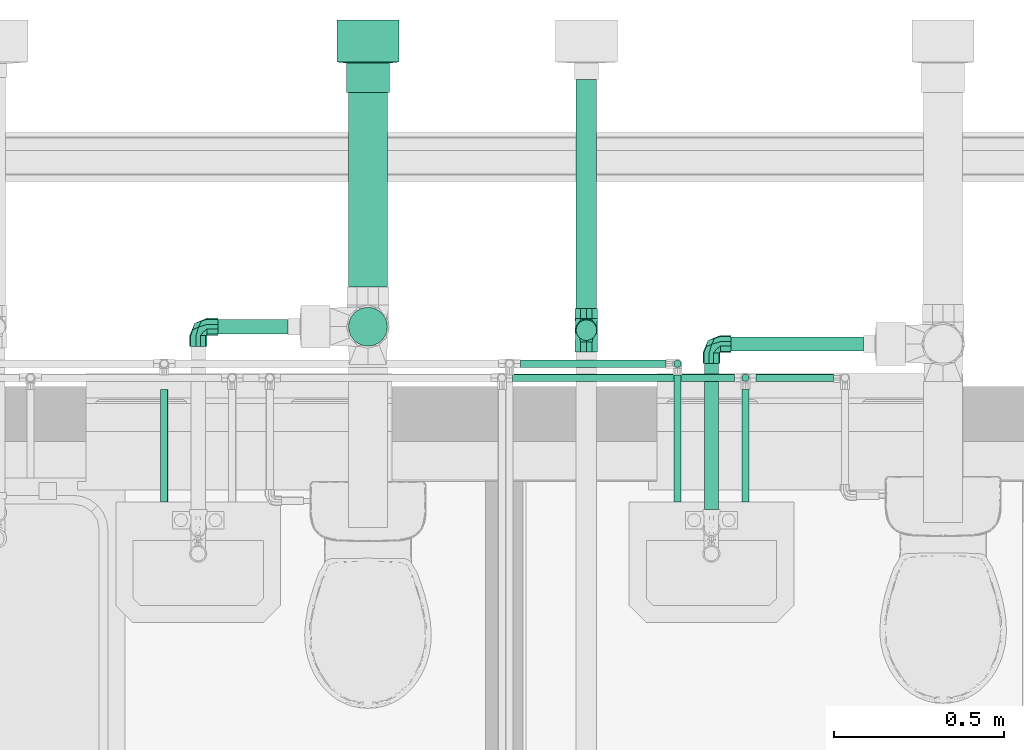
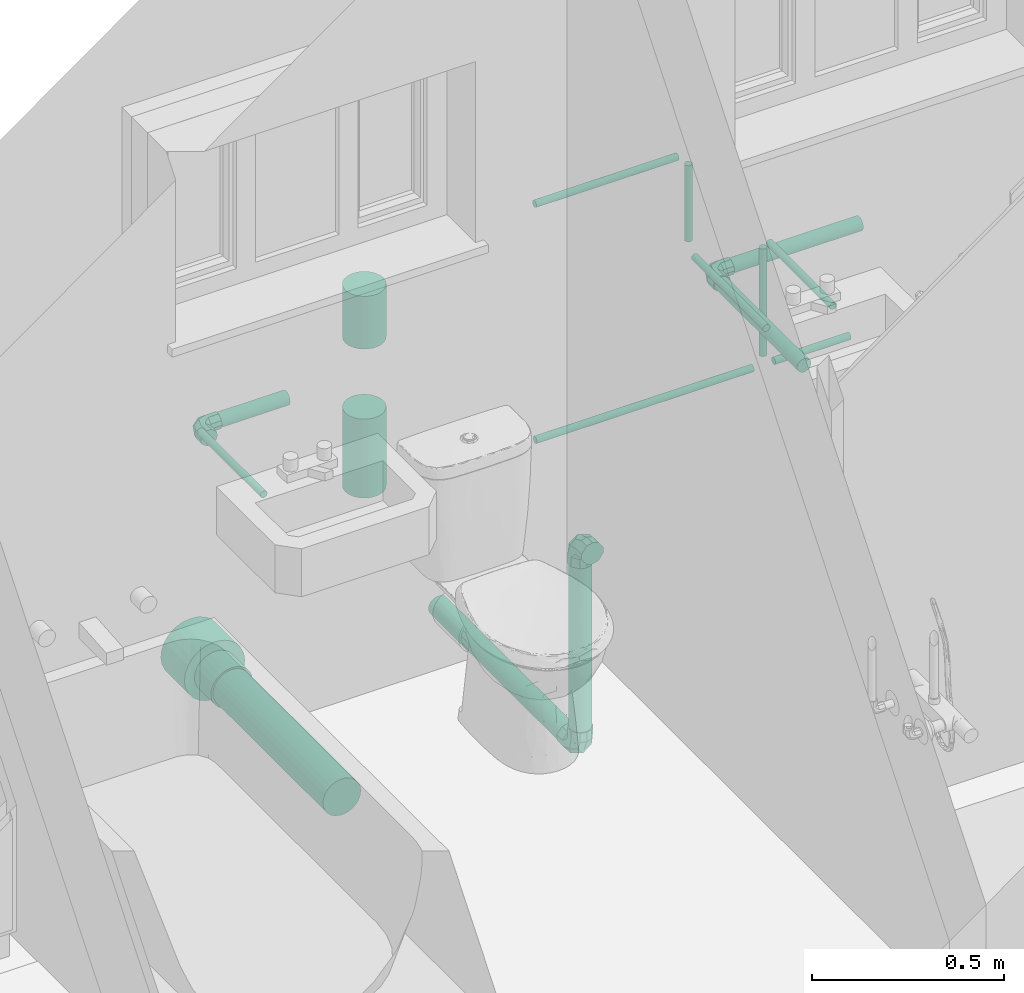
# One storey, part 24 of 41: 16 flow segments, 5 flow fittings.
"""IFC2X3 building model written with IfcOpenShell, lengths in millimetres."""

from ifc_helpers import new_model, entity, si_unit, converted_unit, derived_unit, direction, frame, frame_2d, origin, origin_2d_with_axis, place, context, subcontext, project, spatial, circle, extrude, faceted_brep, source, transform, mapped, type_object, type_shapes, element, save


model = new_model("IFC2X3")

# Units and contexts
model_context = context("Model", 3, precision=0.01, world=origin(), true_north=direction((6.12303176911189e-17, 1.0)))
body_context = subcontext(model_context, "Body", "Model", "MODEL_VIEW")
ifc_project = project(units=[si_unit("LENGTHUNIT", "METRE", prefix="MILLI"), si_unit("AREAUNIT", "SQUARE_METRE"), si_unit("VOLUMEUNIT", "CUBIC_METRE"), converted_unit("PLANEANGLEUNIT", "DEGREE", entity("IfcRatioMeasure", 0.0174532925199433), si_unit("PLANEANGLEUNIT", "RADIAN"), dimensions=[0, 0, 0, 0, 0, 0, 0]), si_unit("MASSUNIT", "GRAM", prefix="KILO"), derived_unit("MASSDENSITYUNIT", [(si_unit("MASSUNIT", "GRAM", prefix="KILO"), 1), (si_unit("LENGTHUNIT", "METRE"), -3)]), si_unit("TIMEUNIT", "SECOND"), si_unit("FREQUENCYUNIT", "HERTZ"), si_unit("THERMODYNAMICTEMPERATUREUNIT", "DEGREE_CELSIUS"), derived_unit("THERMALTRANSMITTANCEUNIT", [(si_unit("MASSUNIT", "GRAM", prefix="KILO"), 1), (si_unit("THERMODYNAMICTEMPERATUREUNIT", "KELVIN"), -1), (si_unit("TIMEUNIT", "SECOND"), -3)]), derived_unit("VOLUMETRICFLOWRATEUNIT", [(si_unit("LENGTHUNIT", "METRE"), 3), (si_unit("TIMEUNIT", "SECOND"), -1)]), si_unit("ELECTRICCURRENTUNIT", "AMPERE"), si_unit("ELECTRICVOLTAGEUNIT", "VOLT"), si_unit("POWERUNIT", "WATT"), si_unit("FORCEUNIT", "NEWTON", prefix="KILO"), si_unit("ILLUMINANCEUNIT", "LUX"), si_unit("LUMINOUSFLUXUNIT", "LUMEN"), si_unit("LUMINOUSINTENSITYUNIT", "CANDELA"), derived_unit("USERDEFINED", [(si_unit("MASSUNIT", "GRAM", prefix="KILO"), -1), (si_unit("LENGTHUNIT", "METRE"), -2), (si_unit("TIMEUNIT", "SECOND"), 3), (si_unit("LUMINOUSFLUXUNIT", "LUMEN"), 1)]), derived_unit("LINEARVELOCITYUNIT", [(si_unit("LENGTHUNIT", "METRE"), 1), (si_unit("TIMEUNIT", "SECOND"), -1)]), si_unit("PRESSUREUNIT", "PASCAL"), derived_unit("USERDEFINED", [(si_unit("LENGTHUNIT", "METRE"), -2), (si_unit("MASSUNIT", "GRAM", prefix="KILO"), 1), (si_unit("TIMEUNIT", "SECOND"), -2)])], contexts=[model_context])

# Site, building, storey
site_placement = place(None, origin())
site = spatial("IfcSite", under=ifc_project, at=site_placement, Name="Surface", CompositionType="ELEMENT")
building_placement = place(site_placement, origin())
building = spatial("IfcBuilding", under=site, at=building_placement, CompositionType="ELEMENT")
storey_placement = place(building_placement, frame((0.0, 0.0, 300.0)))
storey = spatial("IfcBuildingStorey", under=building, at=storey_placement, Name="F.F.L", CompositionType="ELEMENT", Elevation=300.0)

# Flow segments
pipe_segment_type = type_object("IfcPipeSegmentType", Name="Pipe Types:PVC80", PredefinedType="NOTDEFINED")
flow_segment_1_placement = place(storey_placement, origin())
element("IfcFlowSegment", 1, at=flow_segment_1_placement, inside=storey, type_object=pipe_segment_type, Name="Pipe Types:PVC80", ObjectType="Pipe Types:PVC80", context=body_context, shape_type="SweptSolid", body=[
    extrude(circle(Radius=10.668, at=origin_2d_with_axis()), frame((-1871.8751700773, 10485.8400891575, 790.399999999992), z_axis=(0.0, 1.0, 0.0), x_axis=(1.0, 0.0, 0.0)), (0.0, 0.0, 1.0), 331.262449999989),
])
flow_segment_2_placement = place(storey_placement, origin())
element("IfcFlowSegment", 2, at=flow_segment_2_placement, inside=storey, type_object=pipe_segment_type, Name="Pipe Types:PVC80", ObjectType="Pipe Types:PVC80", context=body_context, shape_type="SweptSolid", body=[
    extrude(circle(Radius=10.668, at=origin_2d_with_axis()), frame((-1871.8751700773, 10850.8400891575, 414.950000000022)), (0.0, 0.0, 1.0), 341.712449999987),
])
flow_segment_3_placement = place(storey_placement, origin())
element("IfcFlowSegment", 3, at=flow_segment_3_placement, inside=storey, type_object=pipe_segment_type, Name="Pipe Types:PVC80", ObjectType="Pipe Types:PVC80", context=body_context, shape_type="SweptSolid", body=[
    extrude(circle(Radius=10.668, at=origin_2d_with_axis()), frame((-2556.76270991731, 10850.8400891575, 383.200000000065), z_axis=(1.0, 0.0, 0.0), x_axis=(0.0, -1.0, 0.0)), (0.0, 0.0, 1.0), 653.137539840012),
])
flow_segment_4_placement = place(storey_placement, origin())
element("IfcFlowSegment", 4, at=flow_segment_4_placement, inside=storey, type_object=pipe_segment_type, Name="Pipe Types:PVC80", ObjectType="Pipe Types:PVC80", context=body_context, shape_type="SweptSolid", body=[
    extrude(circle(Radius=10.668, at=origin_2d_with_axis()), frame((-1840.1251700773, 10850.8400891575, 383.200000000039), z_axis=(1.0, 0.0, 0.0), x_axis=(0.0, 1.0, 0.0)), (0.0, 0.0, 1.0), 227.353222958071),
])
flow_segment_5_placement = place(storey_placement, origin())
element("IfcFlowSegment", 5, at=flow_segment_5_placement, inside=storey, type_object=pipe_segment_type, Name="Pipe Types:PVC80", ObjectType="Pipe Types:PVC80", context=body_context, shape_type="SweptSolid", body=[
    extrude(circle(Radius=57.15, at=origin_2d_with_axis()), frame((-2982.45100478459, 11117.8356237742, -763.134367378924), z_axis=(0.0, 1.0, 0.0), x_axis=(1.0, 0.0, 0.0)), (0.0, 0.0, 1.0), 572.729155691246),
])
flow_segment_6_placement = place(storey_placement, origin())
element("IfcFlowSegment", 6, at=flow_segment_6_placement, inside=storey, type_object=pipe_segment_type, Name="Pipe Types:PVC80", ObjectType="Pipe Types:PVC80", context=body_context, shape_type="SweptSolid", body=[
    extrude(circle(Radius=21.082, at=frame_2d((1.10451743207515e-23, -1.35358391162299e-13), x_axis=(1.0, 0.0))), frame((-1971.87517007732, 10463.5043079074, 650.043066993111), z_axis=(0.0, 1.0, 0.0), x_axis=(1.0, 0.0, 0.0)), (0.0, 0.0, 1.0), 429.043614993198),
])
flow_segment_7_placement = place(storey_placement, origin())
element("IfcFlowSegment", 7, at=flow_segment_7_placement, inside=storey, type_object=pipe_segment_type, Name="Pipe Types:PVC80", ObjectType="Pipe Types:PVC80", context=body_context, shape_type="SweptSolid", body=[
    extrude(circle(Radius=10.668, at=origin_2d_with_axis()), frame((-2534.26270991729, 10892.2567375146, 1100.0), z_axis=(1.0, 0.0, 0.0), x_axis=(0.0, 1.0, 0.0)), (0.0, 0.0, 1.0), 428.649989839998),
])
flow_segment_8_placement = place(storey_placement, origin())
element("IfcFlowSegment", 8, at=flow_segment_8_placement, inside=storey, type_object=pipe_segment_type, Name="Pipe Types:PVC80", ObjectType="Pipe Types:PVC80", context=body_context, shape_type="SweptSolid", body=[
    extrude(circle(Radius=10.668, at=origin_2d_with_axis()), frame((-2071.8751700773, 10485.8400891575, 790.399999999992), z_axis=(0.0, 1.0, 0.0), x_axis=(1.0, 0.0, 0.0)), (0.0, 0.0, 1.0), 372.679098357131),
])
flow_segment_9_placement = place(storey_placement, origin())
element("IfcFlowSegment", 9, at=flow_segment_9_placement, inside=storey, type_object=pipe_segment_type, Name="Pipe Types:PVC80", ObjectType="Pipe Types:PVC80", context=body_context, shape_type="SweptSolid", body=[
    extrude(circle(Radius=10.668, at=origin_2d_with_axis()), frame((-2071.8751700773, 10892.2567375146, 824.137549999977)), (0.0, 0.0, 1.0), 242.124899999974),
])
flow_segment_10_placement = place(storey_placement, origin())
element("IfcFlowSegment", 10, at=flow_segment_10_placement, inside=storey, type_object=pipe_segment_type, Name="Pipe Types:PVC80", ObjectType="Pipe Types:PVC80", context=body_context, shape_type="SweptSolid", body=[
    extrude(circle(Radius=10.668, at=origin_2d_with_axis()), frame((-3581.8751700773, 10485.8400891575, 790.399999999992), z_axis=(0.0, 1.0, 0.0), x_axis=(1.0, 0.0, 0.0)), (0.0, 0.0, 1.0), 330.000000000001),
])
flow_segment_11_placement = place(storey_placement, origin())
element("IfcFlowSegment", 11, at=flow_segment_11_placement, inside=storey, type_object=pipe_segment_type, Name="Pipe Types:PVC80", ObjectType="Pipe Types:PVC80", context=body_context, shape_type="SweptSolid", body=[
    extrude(circle(Radius=21.082, at=origin_2d_with_axis()), frame((-3423.93142007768, 11001.1416737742, 657.829124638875), z_axis=(1.0, 0.0, 0.0), x_axis=(0.0, -1.0, 0.0)), (0.0, 0.0, 1.0), 206.951922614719),
])
flow_segment_12_placement = place(storey_placement, origin())
element("IfcFlowSegment", 12, at=flow_segment_12_placement, inside=storey, type_object=pipe_segment_type, Name="Pipe Types:PVC80", ObjectType="Pipe Types:PVC80", context=body_context, shape_type="SweptSolid", body=[
    extrude(circle(Radius=57.15, at=origin_2d_with_axis()), frame((-2982.45100478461, 11001.1416737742, 768.955579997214), z_axis=(0.0, 0.0, 1.0), x_axis=(-1.0, 0.0, 0.0)), (0.0, 0.0, 1.0), 167.741711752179),
])
flow_segment_13_placement = place(storey_placement, origin())
element("IfcFlowSegment", 13, at=flow_segment_13_placement, inside=storey, type_object=pipe_segment_type, Name="Pipe Types:PVC80", ObjectType="Pipe Types:PVC80", context=body_context, shape_type="SweptSolid", body=[
    extrude(circle(Radius=57.15, at=origin_2d_with_axis()), frame((-2982.45100478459, 11001.1416737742, 296.125000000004), z_axis=(0.0, 0.0, 1.0), x_axis=(-1.0, 0.0, 0.0)), (0.0, 0.0, 1.0), 250.58057999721),
])
flow_segment_14_placement = place(storey_placement, origin())
element("IfcFlowSegment", 14, at=flow_segment_14_placement, inside=storey, type_object=pipe_segment_type, Name="Pipe Types:PVC80", ObjectType="Pipe Types:PVC80", context=body_context, shape_type="SweptSolid", body=[
    extrude(circle(Radius=21.082, at=origin_2d_with_axis()), frame((-1913.93142007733, 10950.4916726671, 650.04826891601), z_axis=(1.0, 0.0, 0.0), x_axis=(0.0, -1.0, 0.0)), (0.0, 0.0, 1.0), 389.299046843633),
])
flow_segment_15_placement = place(storey_placement, origin())
element("IfcFlowSegment", 15, at=flow_segment_15_placement, inside=storey, type_object=pipe_segment_type, Name="Pipe Types:PVC80", ObjectType="Pipe Types:PVC80", context=body_context, shape_type="SweptSolid", body=[
    extrude(circle(Radius=30.1625, at=origin_2d_with_axis()), frame((-2339.80584220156, 10991.0211264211, -685.987714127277)), (0.0, 0.0, 1.0), 522.358390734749),
])
flow_segment_16_placement = place(storey_placement, origin())
element("IfcFlowSegment", 16, at=flow_segment_16_placement, inside=storey, type_object=pipe_segment_type, Name="Pipe Types:PVC80", ObjectType="Pipe Types:PVC80", context=body_context, shape_type="SweptSolid", body=[
    extrude(circle(Radius=30.1625, at=frame_2d((2.70716782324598e-13, 0.0), x_axis=(1.0, 0.0))), frame((-2339.80584220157, 11055.3148764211, -750.281464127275), z_axis=(0.0, 1.0, 0.0), x_axis=(1.0, 0.0, 0.0)), (0.0, 0.0, 1.0), 673.249903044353),
])

# Flow fittings
pipe_fitting_type_1 = type_object("IfcPipeFittingType", Name="Standard", PredefinedType="NOTDEFINED")
shared_shape_1 = source(origin(), body_context, "Body", "Brep", [
    faceted_brep([(127.096875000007, -14.0176888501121, 61.4155076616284), (127.096874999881, -26.6471901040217, 55.3334604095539), (127.096875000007, -39.2766913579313, 49.2514131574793), (127.096874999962, -48.0165774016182, 38.2919427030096), (127.096875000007, -56.7564634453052, 27.3324722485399), (127.096875, -59.8756926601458, 13.6662361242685), (127.096875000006, -62.9949218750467, 0.0), (127.096875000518, -59.8756926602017, -13.6662361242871), (127.096875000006, -56.7564634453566, -27.3324722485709), (127.096875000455, -48.0165774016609, -38.2919427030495), (127.096875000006, -39.2766913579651, -49.2514131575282), (127.096875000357, -26.6471901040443, -55.3334604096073), (127.096875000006, -14.0176888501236, -61.4155076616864), (127.096875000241, 0.0, -61.4155076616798), (127.096875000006, 14.0176888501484, -61.4155076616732), (127.096875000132, 26.6471901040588, -55.3334604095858), (127.096875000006, 39.2766913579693, -49.2514131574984), (127.09687500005, 48.0165774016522, -38.2919427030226), (127.096875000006, 56.7564634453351, -27.3324722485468), (127.096875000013, 59.8756926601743, -13.6662361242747), (127.096875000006, 62.9949218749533, 0.0), (127.096874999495, 59.8756926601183, 13.6662361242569), (127.096875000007, 56.7564634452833, 27.3324722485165), (127.096874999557, 48.0165774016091, 38.2919427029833), (127.096875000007, 39.2766913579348, 49.2514131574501), (127.096874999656, 26.6471901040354, 55.3334604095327), (127.096875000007, 14.0176888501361, 61.4155076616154), (127.096874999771, 0.0, 61.4155076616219), (123.921875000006, -90.994921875, 0.0), (123.921875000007, -85.5072566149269, 31.1220962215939), (123.921875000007, -69.706154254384, 58.4904083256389), (123.921875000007, -45.4974609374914, 78.803913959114), (123.921875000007, -15.8011023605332, 89.6125045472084), (123.921875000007, 15.8011023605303, 89.6125045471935), (123.921875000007, 45.4974609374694, 78.8039139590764), (123.921875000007, 69.7061542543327, 58.4904083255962), (123.921875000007, 85.5072566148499, 31.1220962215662), (123.921875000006, 90.994921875, 0.0), (123.921875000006, 85.5072566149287, -31.1220962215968), (123.921875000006, 69.7061542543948, -58.4904083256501), (123.921875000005, 45.497460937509, -78.8039139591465), (123.921875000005, 15.8011023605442, -89.6125045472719), (123.921875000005, -15.801102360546, -89.6125045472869), (123.921875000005, -45.49746093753, -78.8039139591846), (123.921875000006, -69.7061542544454, -58.4904083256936), (123.921875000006, -85.5072566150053, -31.1220962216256)], [[[0, 1, 2, 3, 4, 5, 6, 7, 8, 9, 10, 11, 12, 13, 14, 15, 16, 17, 18, 19, 20, 21, 22, 23, 24, 25, 26, 27]], [[28, 29, 30, 31, 32, 33, 34, 35, 36, 37, 38, 39, 40, 41, 42, 43, 44, 45]], [[45, 7, 28]], [[12, 11, 42]], [[6, 28, 7]], [[45, 8, 7]], [[9, 8, 44, 10]], [[14, 41, 15]], [[11, 10, 43]], [[44, 43, 10]], [[13, 12, 42, 41, 14]], [[17, 16, 39, 18]], [[43, 42, 11]], [[40, 15, 41]], [[45, 44, 8]], [[20, 19, 37]], [[40, 16, 15]], [[19, 18, 38]], [[16, 40, 39]], [[18, 39, 38]], [[37, 19, 38]], [[36, 21, 37]], [[26, 25, 33]], [[20, 37, 21]], [[36, 22, 21]], [[23, 22, 35, 24]], [[0, 32, 1]], [[25, 24, 34]], [[35, 34, 24]], [[27, 26, 33, 32, 0]], [[3, 2, 30, 4]], [[34, 33, 25]], [[31, 1, 32]], [[36, 35, 22]], [[6, 5, 28]], [[31, 2, 1]], [[5, 4, 29]], [[2, 31, 30]], [[4, 30, 29]], [[28, 5, 29]]]),
    faceted_brep([(213.018750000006, -16.3042855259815, -60.8484219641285), (213.018750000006, 0.0, -62.9949218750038), (213.018750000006, 16.3042855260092, -60.8484219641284), (213.018750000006, 31.4974609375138, -54.5552026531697), (213.018750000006, 44.544136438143, -44.5441364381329), (213.018750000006, 54.5552026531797, -31.4974609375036), (213.018750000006, 60.8484219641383, -16.304285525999), (213.018750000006, 62.9949218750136, 0.0), (213.018750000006, 60.8484219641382, 16.3042855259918), (213.018750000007, 54.5552026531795, 31.4974609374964), (213.018750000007, 44.5441364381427, 44.5441364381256), (213.018750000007, 31.4974609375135, 54.5552026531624), (213.018750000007, 16.3042855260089, 60.848421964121), (213.018750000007, 0.0, 62.9949218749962), (213.018750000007, -16.3042855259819, 60.8484219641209), (213.018750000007, -31.4974609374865, 54.5552026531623), (213.018750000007, -44.5441364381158, 44.5441364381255), (213.018750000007, -54.5552026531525, 31.4974609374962), (213.018750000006, -60.8484219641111, 16.3042855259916), (213.018750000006, -62.9949218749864, 0.0), (213.018750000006, -60.848421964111, -16.3042855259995), (213.018750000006, -54.5552026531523, -31.4974609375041), (213.018750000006, -44.5441364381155, -44.5441364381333), (213.018750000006, -31.4974609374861, -54.55520265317), (127.096875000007, -16.3042855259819, 60.8484219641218), (127.096875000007, 0.0, 62.9949218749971), (127.096875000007, 16.3042855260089, 60.8484219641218), (127.096875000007, 31.4974609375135, 54.5552026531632), (127.096875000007, 44.5441364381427, 44.5441364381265), (127.096875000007, 54.5552026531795, 31.4974609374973), (127.096875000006, 60.8484219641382, 16.3042855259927), (127.096875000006, 62.9949218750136, 0.0), (127.096875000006, 60.8484219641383, -16.3042855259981), (127.096875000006, 54.5552026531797, -31.4974609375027), (127.096875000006, 44.544136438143, -44.544136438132), (127.096875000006, 31.4974609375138, -54.5552026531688), (127.096875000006, 16.3042855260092, -60.8484219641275), (127.096875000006, 0.0, -62.9949218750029), (127.096875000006, -16.3042855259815, -60.8484219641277), (127.096875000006, -31.4974609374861, -54.5552026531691), (127.096875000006, -44.5441364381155, -44.5441364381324), (127.096875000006, -54.5552026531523, -31.4974609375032), (127.096875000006, -60.848421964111, -16.3042855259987), (127.096875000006, -62.9949218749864, 0.0), (127.096875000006, -60.8484219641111, 16.3042855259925), (127.096875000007, -54.5552026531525, 31.4974609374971), (127.096875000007, -44.5441364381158, 44.5441364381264), (127.096875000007, -31.4974609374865, 54.5552026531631)], [[[0, 1, 2, 3, 4, 5, 6, 7, 8, 9, 10, 11, 12, 13, 14, 15, 16, 17, 18, 19, 20, 21, 22, 23]], [[24, 25, 26, 27, 28, 29, 30, 31, 32, 33, 34, 35, 36, 37, 38, 39, 40, 41, 42, 43, 44, 45, 46, 47]], [[33, 32, 6, 5]], [[33, 5, 4, 34]], [[36, 35, 3, 2]], [[4, 3, 35, 34]], [[37, 36, 2, 1]], [[31, 7, 6, 32]], [[39, 38, 0, 23]], [[39, 23, 22, 40]], [[42, 41, 21, 20]], [[22, 21, 41, 40]], [[43, 42, 20, 19]], [[1, 0, 38, 37]], [[44, 43, 19, 18]], [[44, 18, 17, 45]], [[24, 47, 15, 14]], [[25, 24, 14, 13]], [[15, 47, 46, 16]], [[45, 17, 16, 46]], [[27, 26, 12, 11]], [[27, 11, 10, 28]], [[30, 29, 9, 8]], [[10, 9, 29, 28]], [[31, 30, 8, 7]], [[13, 12, 26, 25]]]),
    faceted_brep([(123.921875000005, -23.5512187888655, -87.89434510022), (123.921875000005, 0.0, -90.9949218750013), (123.921875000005, 23.5512187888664, -87.8943451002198), (123.921875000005, 45.4974609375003, -78.8039139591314), (123.921875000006, 64.3431263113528, -64.3431263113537), (123.921875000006, 78.8039139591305, -45.497460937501), (123.921875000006, 87.8943451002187, -23.5512187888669), (123.921875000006, 90.994921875, 0.0), (123.921875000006, 87.8943451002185, 23.551218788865), (123.921875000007, 78.8039139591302, 45.4974609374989), (123.921875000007, 64.3431263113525, 64.3431263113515), (123.921875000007, 45.4974609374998, 78.8039139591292), (123.921875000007, 23.5512187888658, 87.8943451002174), (123.921875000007, 0.0, 90.9949218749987), (123.921875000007, -23.5512187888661, 87.8943451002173), (123.921875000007, -45.4974609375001, 78.803913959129), (123.921875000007, -64.3431263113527, 64.3431263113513), (123.921875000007, -78.8039139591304, 45.4974609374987), (123.921875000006, -87.8943451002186, 23.5512187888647), (123.921875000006, -90.994921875, 0.0), (123.921875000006, -87.8943451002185, -23.5512187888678), (123.921875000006, -78.8039139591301, -45.4974609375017), (123.921875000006, -64.3431263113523, -64.3431263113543), (123.921875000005, -45.4974609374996, -78.8039139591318), (0.0, -45.4974609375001, 78.8039139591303), (0.0, -23.5512187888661, 87.8943451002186), (0.0, 0.0, 90.994921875), (0.0, 23.5512187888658, 87.8943451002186), (0.0, 45.4974609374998, 78.8039139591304), (0.0, 64.3431263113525, 64.3431263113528), (0.0, 78.8039139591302, 45.4974609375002), (0.0, 87.8943451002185, 23.5512187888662), (0.0, 90.994921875, 0.0), (0.0, 87.8943451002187, -23.5512187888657), (0.0, 78.8039139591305, -45.4974609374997), (0.0, 64.3431263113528, -64.3431263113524), (0.0, 45.4974609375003, -78.8039139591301), (0.0, 23.5512187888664, -87.8943451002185), (0.0, 0.0, -90.994921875), (0.0, -23.5512187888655, -87.8943451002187), (0.0, -45.4974609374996, -78.8039139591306), (0.0, -64.3431263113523, -64.343126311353), (0.0, -78.8039139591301, -45.4974609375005), (0.0, -87.8943451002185, -23.5512187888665), (0.0, -90.994921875, 0.0), (0.0, -87.8943451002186, 23.551218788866), (0.0, -78.8039139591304, 45.4974609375), (0.0, -64.3431263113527, 64.3431263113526)], [[[0, 1, 2, 3, 4, 5, 6, 7, 8, 9, 10, 11, 12, 13, 14, 15, 16, 17, 18, 19, 20, 21, 22, 23]], [[24, 25, 26, 27, 28, 29, 30, 31, 32, 33, 34, 35, 36, 37, 38, 39, 40, 41, 42, 43, 44, 45, 46, 47]], [[34, 33, 6, 5]], [[34, 5, 4, 35]], [[37, 36, 3, 2]], [[4, 3, 36, 35]], [[38, 37, 2, 1]], [[32, 7, 6, 33]], [[40, 39, 0, 23]], [[40, 23, 22, 41]], [[43, 42, 21, 20]], [[22, 21, 42, 41]], [[44, 43, 20, 19]], [[1, 0, 39, 38]], [[45, 44, 19, 18]], [[46, 45, 18, 17]], [[25, 24, 15, 14]], [[26, 25, 14, 13]], [[17, 16, 47, 46]], [[16, 15, 24, 47]], [[28, 27, 12, 11]], [[28, 11, 10, 29]], [[31, 30, 9, 8]], [[10, 9, 30, 29]], [[32, 31, 8, 7]], [[13, 12, 27, 26]]]),
])
type_shapes(pipe_fitting_type_1, [shared_shape_1])
flow_fitting_placement = place(storey_placement, frame((-2982.45100478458, 11903.5835294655, -763.134367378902), z_axis=(0.999800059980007, 0.0, 0.0199960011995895), x_axis=(0.0, -1.0, 0.0)))
element("IfcFlowFitting", 17, at=flow_fitting_placement, inside=storey, type_object=pipe_fitting_type_1, Name="M_Coupling Reducing - PVC - Sch 40:Standard", ObjectType="Standard", context=body_context, shape_type="MappedRepresentation", body=[
    mapped(shared_shape_1, transform((0.0, 0.0, 0.0), scale=1.0)),
])
pipe_fitting_type_2 = type_object("IfcPipeFittingType", Name="Standard", PredefinedType="NOTDEFINED")
shared_shape_2 = source(origin(), body_context, "Body", "Brep", [
    faceted_brep([(-57.9437499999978, 25.3999999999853, 0.0), (-57.9437499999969, 21.9970452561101, -12.7000000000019), (-57.9437499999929, 6.57400374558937, -24.5345159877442), (-57.9437499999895, -6.57400374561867, -24.5345159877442), (-57.9437499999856, -21.9970452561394, -12.7000000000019), (-57.9437499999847, -25.4000000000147, 0.0), (-57.9437499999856, -21.9970452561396, 12.6999999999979), (-57.9437499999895, -6.57400374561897, 24.5345159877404), (-57.9437499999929, 6.57400374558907, 24.5345159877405), (-57.9437499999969, 21.9970452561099, 12.6999999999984), (-26.1937499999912, -25.4000000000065, 0.0), (-26.1937499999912, -21.9970452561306, 12.6999999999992), (-26.1937499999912, -6.574003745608, 24.5345159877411), (-26.1937499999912, 6.57400374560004, 24.5345159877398), (6.57400374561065, 57.9437499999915, 24.5345159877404), (-6.57400374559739, 57.9437499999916, 24.5345159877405), (-6.57400374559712, 26.1937499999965, 24.53451598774), (6.57400374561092, 26.1937499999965, 24.534515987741), (-26.1937499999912, 21.9970452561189, 12.6999999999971), (-26.1937499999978, 25.3999999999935, 0.0), (-26.1937499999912, 21.997045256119, -12.7000000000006), (-26.1937499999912, 6.57400374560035, -24.5345159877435), (-26.1937499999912, -6.5740037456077, -24.534515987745), (-6.5740037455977, 57.9437499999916, -24.5345159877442), (6.57400374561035, 57.9437499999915, -24.5345159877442), (6.57400374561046, 26.1937499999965, -24.5345159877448), (-6.57400374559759, 26.1937499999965, -24.5345159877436), (-26.1937499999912, -21.9970452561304, -12.7000000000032), (-0.996725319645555, 0.99672259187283, 23.5805456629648), (-9.1428453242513, -16.3830206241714, 16.0697767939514), (-3.32571502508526, -15.9277497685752, 0.0), (10.2885404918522, -10.288540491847, 0.0), (16.3830198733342, 9.14284275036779, 16.0697764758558), (-25.6324839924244, 25.6324839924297, 0.0), (-21.9970452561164, 26.1937499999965, 12.6999999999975), (-15.1192890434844, 15.119288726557, 23.1135227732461), (15.927749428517, 3.32571420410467, 0.0), (25.4000000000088, 26.1937499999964, 0.0), (21.9970452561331, 26.1937499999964, 12.6999999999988), (-25.3999999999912, 26.1937499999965, 0.0), (-9.14284515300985, -16.3830205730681, -16.0697767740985), (-15.11928869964, 15.119288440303, -23.1135229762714), (-21.9970452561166, 26.1937499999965, -12.7000000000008), (-0.996724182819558, 0.996722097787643, -23.5805452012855), (16.3830195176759, 9.14284288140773, -16.0697769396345), (21.9970452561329, 26.1937499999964, -12.700000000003), (21.9970452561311, 57.9437499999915, -12.7000000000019), (-21.9970452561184, 57.9437499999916, -12.7000000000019), (-25.3999999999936, 57.9437499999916, 0.0), (-21.9970452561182, 57.9437499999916, 12.6999999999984), (21.9970452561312, 57.9437499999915, 12.6999999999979), (25.4000000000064, 57.9437499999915, 0.0)], [[[0, 1, 2, 3, 4, 5, 6, 7, 8, 9]], [[5, 10, 11, 6]], [[6, 11, 12, 7]], [[12, 13, 8, 7]], [[14, 15, 16, 17]], [[8, 13, 18, 9]], [[9, 18, 19, 0]], [[0, 19, 20, 1]], [[1, 20, 21, 2]], [[21, 22, 3, 2]], [[23, 24, 25, 26]], [[3, 22, 27, 4]], [[4, 27, 10, 5]], [[12, 28, 13]], [[29, 11, 30]], [[31, 29, 30]], [[17, 28, 32]], [[29, 12, 11]], [[33, 18, 34]], [[31, 32, 28]], [[33, 19, 18]], [[18, 13, 35]], [[11, 10, 30]], [[28, 29, 31]], [[36, 37, 38]], [[28, 35, 13]], [[28, 12, 29]], [[32, 36, 38]], [[18, 35, 34]], [[33, 34, 39]], [[32, 38, 17]], [[34, 35, 16]], [[28, 16, 35]], [[32, 31, 36]], [[16, 28, 17]], [[40, 31, 30]], [[40, 27, 22]], [[41, 20, 42]], [[41, 43, 21]], [[10, 27, 30]], [[43, 25, 44]], [[27, 40, 30]], [[43, 22, 21]], [[31, 40, 43]], [[43, 41, 26]], [[20, 19, 33]], [[33, 39, 42]], [[31, 44, 36]], [[22, 43, 40]], [[42, 26, 41]], [[45, 36, 44]], [[45, 37, 36]], [[31, 43, 44]], [[20, 41, 21]], [[44, 25, 45]], [[26, 25, 43]], [[42, 20, 33]], [[46, 24, 23, 47, 48, 49, 15, 14, 50, 51]], [[37, 51, 50, 38]], [[38, 50, 14, 17]], [[16, 15, 49, 34]], [[34, 49, 48, 39]], [[39, 48, 47, 42]], [[42, 47, 23, 26]], [[25, 24, 46, 45]], [[45, 46, 51, 37]]]),
])
type_shapes(pipe_fitting_type_2, [shared_shape_2])
for number, where, z_axis, x_axis, name in (
    (18, (-3481.87517007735, 11001.1416737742, 657.828933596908), (-3.29702458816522e-06, -5.38161941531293e-05, 1.0), (-1.0, 0.0, -3.29702459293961e-06), "M_Elbow - PVC - Sch 40:Standard"),
    (19, (-1971.87517007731, 10950.4916726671, 650.048268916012), (0.0, -8.97753925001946e-05, 0.99999999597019), (-1.0, 0.0, 0.0), "M_Elbow - PVC - Sch 40:Standard"),
):
    element("IfcFlowFitting", number, at=place(storey_placement, frame(where, z_axis=z_axis, x_axis=x_axis)), inside=storey, type_object=pipe_fitting_type_2, Name=name, ObjectType="Standard", context=body_context, shape_type="MappedRepresentation", body=[
        mapped(shared_shape_2, transform((0.0, 0.0, 0.0), scale=1.0)),
    ])
pipe_fitting_type_3 = type_object("IfcPipeFittingType", Name="Standard", PredefinedType="NOTDEFINED")
shared_shape_3 = source(origin(), body_context, "Body", "Brep", [
    faceted_brep([(-64.2937499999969, 34.1375999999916, 0.0), (-64.2937499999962, 29.5640288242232, -17.0688000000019), (-64.2937499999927, 8.83546103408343, -32.9743894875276), (-64.2937499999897, -8.83546103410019, -32.9743894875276), (-64.2937499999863, -29.56402882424, -17.0688000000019), (-64.2937499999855, -34.1376000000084, 0.0), (-64.2937499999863, -29.5640288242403, 17.0687999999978), (-64.2937499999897, -8.83546103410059, 32.9743894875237), (-64.2937499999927, 8.83546103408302, 32.9743894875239), (-64.2937499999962, 29.564028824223, 17.0687999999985), (-34.9313499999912, -34.1376000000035, 0.0), (-34.9313499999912, -29.5640288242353, 17.0687999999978), (-34.9313499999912, -8.83546103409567, 32.9743894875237), (-34.9313499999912, 8.83546103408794, 32.9743894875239), (8.83546103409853, 64.2937499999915, 32.9743894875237), (-8.83546103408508, 64.2937499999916, 32.9743894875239), (-8.83546103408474, 34.9313499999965, 32.9743894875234), (8.83546103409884, 34.9313499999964, 32.9743894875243), (-34.9313499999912, 29.5640288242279, 17.0687999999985), (-34.9313499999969, 34.1375999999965, 0.0), (-34.9313499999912, 29.5640288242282, -17.0688000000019), (-34.9313499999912, 8.83546103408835, -32.9743894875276), (-34.9313499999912, -8.83546103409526, -32.9743894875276), (-8.83546103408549, 64.2937499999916, -32.9743894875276), (8.83546103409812, 64.2937499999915, -32.9743894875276), (8.83546103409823, 34.9313499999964, -32.9743894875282), (-8.83546103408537, 34.9313499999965, -32.9743894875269), (-34.9313499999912, -29.5640288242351, -17.0688000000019), (-1.19295834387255, 1.1929548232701, 31.6543465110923), (-12.1929941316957, -22.0908141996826, 21.5728934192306), (-4.19671098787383, -21.4068956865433, 0.0), (13.9077729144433, -13.9077729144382, 0.0), (22.0908130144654, 12.1929907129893, 21.5728932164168), (-34.3700839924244, 34.3700839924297, 0.0), (-29.5640288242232, 34.9313499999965, 17.0687999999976), (-20.2280063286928, 20.2280059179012, 31.0725230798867), (21.4068952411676, 4.19670991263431, 0.0), (34.1376000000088, 34.9313499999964, 0.0), (29.5640288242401, 34.9313499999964, 17.0687999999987), (-34.1375999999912, 34.9313499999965, 0.0), (-12.1929939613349, -22.0908141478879, -21.5728934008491), (-20.2280059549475, 20.2280056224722, -31.0725232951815), (-29.5640288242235, 34.9313499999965, -17.0688000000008), (-1.19295730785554, 1.1929544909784, -31.6543461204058), (22.090812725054, 12.1929908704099, -21.5728936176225), (29.5640288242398, 34.9313499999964, -17.068800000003), (34.1376000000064, 64.2937499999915, 0.0), (29.564028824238, 64.2937499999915, -17.0688000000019), (-29.5640288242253, 64.2937499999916, -17.0688000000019), (-34.1375999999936, 64.2937499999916, 0.0), (-29.5640288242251, 64.2937499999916, 17.0687999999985), (29.5640288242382, 64.2937499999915, 17.0687999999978)], [[[0, 1, 2, 3, 4, 5, 6, 7, 8, 9]], [[5, 10, 11, 6]], [[6, 11, 12, 7]], [[12, 13, 8, 7]], [[14, 15, 16, 17]], [[8, 13, 18, 9]], [[9, 18, 19, 0]], [[0, 19, 20, 1]], [[1, 20, 21, 2]], [[21, 22, 3, 2]], [[23, 24, 25, 26]], [[3, 22, 27, 4]], [[4, 27, 10, 5]], [[12, 28, 13]], [[29, 11, 30]], [[31, 29, 30]], [[17, 28, 32]], [[29, 12, 11]], [[33, 18, 34]], [[31, 32, 28]], [[33, 19, 18]], [[18, 13, 35]], [[11, 10, 30]], [[28, 29, 31]], [[36, 37, 38]], [[28, 35, 13]], [[28, 12, 29]], [[32, 36, 38]], [[18, 35, 34]], [[33, 34, 39]], [[32, 38, 17]], [[35, 16, 34]], [[35, 28, 16]], [[32, 31, 36]], [[16, 28, 17]], [[40, 31, 30]], [[40, 27, 22]], [[41, 20, 42]], [[41, 43, 21]], [[10, 27, 30]], [[43, 25, 44]], [[27, 40, 30]], [[43, 22, 21]], [[31, 40, 43]], [[43, 41, 26]], [[20, 19, 33]], [[33, 39, 42]], [[31, 44, 36]], [[22, 43, 40]], [[42, 26, 41]], [[43, 26, 25]], [[45, 37, 36]], [[31, 43, 44]], [[20, 41, 21]], [[44, 25, 45]], [[45, 36, 44]], [[42, 20, 33]], [[46, 47, 24, 23, 48, 49, 50, 15, 14, 51]], [[37, 46, 51, 38]], [[38, 51, 14, 17]], [[16, 15, 50, 34]], [[34, 50, 49, 39]], [[39, 49, 48, 42]], [[42, 48, 23, 26]], [[25, 24, 47, 45]], [[45, 47, 46, 37]]]),
])
type_shapes(pipe_fitting_type_3, [shared_shape_3])
for number, where, z_axis, x_axis, name in (
    (20, (-2339.80584220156, 10991.0211264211, -99.3355733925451), (-1.0, 0.0, 0.0), (0.0, 1.0, 0.0), "M_Elbow - PVC - Sch 40:Standard"),
    (21, (-2339.80584220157, 10991.0211264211, -750.281464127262), (1.0, 0.0, 0.0), (0.0, 0.0, -1.0), "M_Elbow - PVC - Sch 40:Standard"),
):
    element("IfcFlowFitting", number, at=place(storey_placement, frame(where, z_axis=z_axis, x_axis=x_axis)), inside=storey, type_object=pipe_fitting_type_3, Name=name, ObjectType="Standard", context=body_context, shape_type="MappedRepresentation", body=[
        mapped(shared_shape_3, transform((0.0, 0.0, 0.0), scale=1.0)),
    ])

save(model, "model.ifc")
